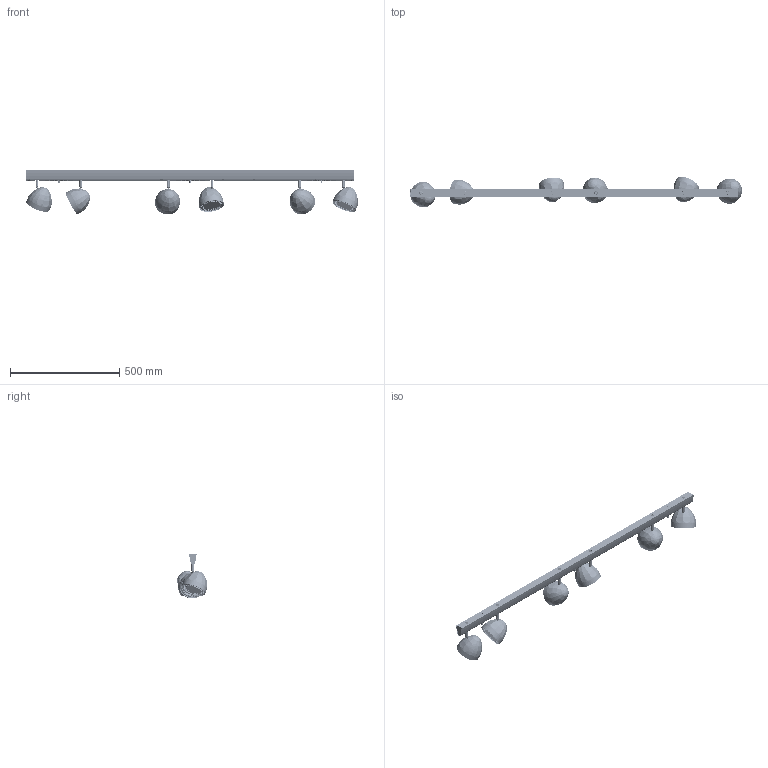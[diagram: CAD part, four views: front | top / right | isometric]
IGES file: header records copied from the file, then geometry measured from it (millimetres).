
Start section: SolidWorks IGES file using NURBS representation for surfaces
Global section: file name: Z:\Modele 3D_WWW\_KOLEKCJE_WWW\VESPA\VESPA-9595-8842\VESPA-9595-8842.IGS; native system: SolidWorks 2021; preprocessor: SolidWorks 2021; author: gabriela.tworek; date: 211105.133652; units: millimetre
Bounding box: 1516.67 x 137.19 x 204.31 mm (x, y, z)
Surface area: 1094853 mm2 (no closed solid volume)
Topology: 0 solids, 0 shells, 3450 faces, 53590 edges, 53374 vertices
Faces by surface type: bspline 3450
